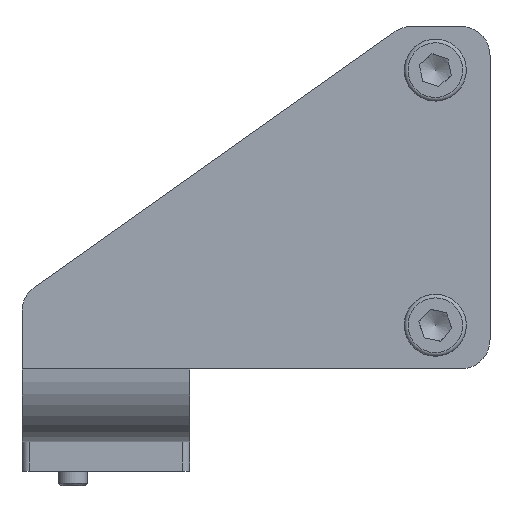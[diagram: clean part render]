
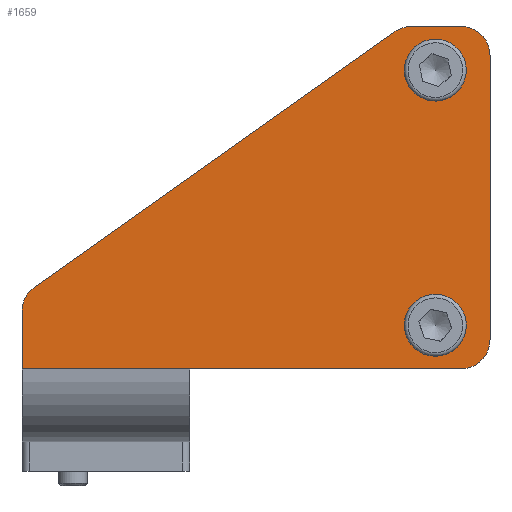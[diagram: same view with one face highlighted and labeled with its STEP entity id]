
A CAD part, left-side view. The second image highlights one B-rep face of the part: STEP entity #1659.
In plain terms, the highlighted planar face has unit normal (-1, 0, 0).
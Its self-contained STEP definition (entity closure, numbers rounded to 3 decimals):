
#134=FACE_BOUND('',#325,.T.);
#135=FACE_BOUND('',#326,.T.);
#171=PLANE('',#1860);
#222=FACE_OUTER_BOUND('',#324,.T.);
#324=EDGE_LOOP('',(#1181,#1182,#1183,#1184,#1185,#1186,#1187,#1188,#1189,
#1190));
#325=EDGE_LOOP('',(#1191));
#326=EDGE_LOOP('',(#1192));
#467=LINE('',#2599,#585);
#468=LINE('',#2603,#586);
#469=LINE('',#2607,#587);
#470=LINE('',#2611,#588);
#471=LINE('',#2613,#589);
#472=LINE('',#2614,#590);
#585=VECTOR('',#2086,10.);
#586=VECTOR('',#2089,10.);
#587=VECTOR('',#2092,10.);
#588=VECTOR('',#2095,10.);
#589=VECTOR('',#2096,10.);
#590=VECTOR('',#2097,10.);
#699=CIRCLE('',#1859,4.);
#700=CIRCLE('',#1861,4.);
#701=CIRCLE('',#1862,4.);
#702=CIRCLE('',#1863,4.);
#703=CIRCLE('',#1864,2.65);
#704=CIRCLE('',#1865,2.65);
#787=VERTEX_POINT('',#2592);
#788=VERTEX_POINT('',#2594);
#789=VERTEX_POINT('',#2598);
#790=VERTEX_POINT('',#2600);
#791=VERTEX_POINT('',#2602);
#792=VERTEX_POINT('',#2604);
#793=VERTEX_POINT('',#2606);
#794=VERTEX_POINT('',#2608);
#795=VERTEX_POINT('',#2610);
#796=VERTEX_POINT('',#2612);
#797=VERTEX_POINT('',#2615);
#798=VERTEX_POINT('',#2617);
#946=EDGE_CURVE('',#787,#788,#699,.T.);
#948=EDGE_CURVE('',#787,#789,#467,.T.);
#949=EDGE_CURVE('',#790,#789,#700,.T.);
#950=EDGE_CURVE('',#790,#791,#468,.T.);
#951=EDGE_CURVE('',#792,#791,#701,.T.);
#952=EDGE_CURVE('',#792,#793,#469,.T.);
#953=EDGE_CURVE('',#794,#793,#702,.T.);
#954=EDGE_CURVE('',#795,#794,#470,.T.);
#955=EDGE_CURVE('',#795,#796,#471,.T.);
#956=EDGE_CURVE('',#796,#788,#472,.T.);
#957=EDGE_CURVE('',#797,#797,#703,.T.);
#958=EDGE_CURVE('',#798,#798,#704,.T.);
#1181=ORIENTED_EDGE('',*,*,#946,.F.);
#1182=ORIENTED_EDGE('',*,*,#948,.T.);
#1183=ORIENTED_EDGE('',*,*,#949,.F.);
#1184=ORIENTED_EDGE('',*,*,#950,.T.);
#1185=ORIENTED_EDGE('',*,*,#951,.F.);
#1186=ORIENTED_EDGE('',*,*,#952,.T.);
#1187=ORIENTED_EDGE('',*,*,#953,.F.);
#1188=ORIENTED_EDGE('',*,*,#954,.F.);
#1189=ORIENTED_EDGE('',*,*,#955,.T.);
#1190=ORIENTED_EDGE('',*,*,#956,.T.);
#1191=ORIENTED_EDGE('',*,*,#957,.T.);
#1192=ORIENTED_EDGE('',*,*,#958,.T.);
#1659=ADVANCED_FACE('',(#222,#134,#135),#171,.F.);
#1859=AXIS2_PLACEMENT_3D('',#2595,#2081,#2082);
#1860=AXIS2_PLACEMENT_3D('',#2597,#2084,#2085);
#1861=AXIS2_PLACEMENT_3D('',#2601,#2087,#2088);
#1862=AXIS2_PLACEMENT_3D('',#2605,#2090,#2091);
#1863=AXIS2_PLACEMENT_3D('',#2609,#2093,#2094);
#1864=AXIS2_PLACEMENT_3D('',#2616,#2098,#2099);
#1865=AXIS2_PLACEMENT_3D('',#2618,#2100,#2101);
#2081=DIRECTION('center_axis',(1.,0.,0.));
#2082=DIRECTION('ref_axis',(0.,-0.707,-0.707));
#2084=DIRECTION('center_axis',(1.,0.,0.));
#2085=DIRECTION('ref_axis',(0.,0.,-1.));
#2086=DIRECTION('',(0.,0.,1.));
#2087=DIRECTION('center_axis',(1.,0.,0.));
#2088=DIRECTION('ref_axis',(0.,-0.707,0.707));
#2089=DIRECTION('',(0.,1.,0.));
#2090=DIRECTION('center_axis',(1.,0.,0.));
#2091=DIRECTION('ref_axis',(0.,0.303,0.953));
#2092=DIRECTION('',(0.,0.816,-0.578));
#2093=DIRECTION('center_axis',(1.,0.,0.));
#2094=DIRECTION('ref_axis',(0.,0.888,0.459));
#2095=DIRECTION('',(0.,0.,1.));
#2096=DIRECTION('',(0.,-1.,0.));
#2097=DIRECTION('',(0.,-1.,0.));
#2098=DIRECTION('center_axis',(1.,0.,0.));
#2099=DIRECTION('ref_axis',(0.,0.,
1.));
#2100=DIRECTION('center_axis',(1.,0.,0.));
#2101=DIRECTION('ref_axis',(0.,0.,
1.));
#2592=CARTESIAN_POINT('',(-44.1,-41.2,14.));
#2594=CARTESIAN_POINT('',(-44.1,-37.2,10.));
#2595=CARTESIAN_POINT('Origin',(-44.1,-37.2,14.));
#2597=CARTESIAN_POINT('Origin',(-44.1,11.5,-36.289));
#2598=CARTESIAN_POINT('',(-44.1,-41.2,53.));
#2599=CARTESIAN_POINT('',(-44.1,-41.2,10.));
#2600=CARTESIAN_POINT('',(-44.1,-37.2,57.));
#2601=CARTESIAN_POINT('Origin',(-44.1,-37.2,53.));
#2602=CARTESIAN_POINT('',(-44.1,-30.474,57.));
#2603=CARTESIAN_POINT('',(-44.1,-41.2,57.));
#2604=CARTESIAN_POINT('',(-44.1,-28.161,56.263));
#2605=CARTESIAN_POINT('Origin',(-44.1,-30.474,53.));
#2606=CARTESIAN_POINT('',(-44.1,21.313,21.196));
#2607=CARTESIAN_POINT('',(-44.1,-8.674,42.451));
#2608=CARTESIAN_POINT('',(-44.1,23.,17.932));
#2609=CARTESIAN_POINT('Origin',(-44.1,19.,17.932));
#2610=CARTESIAN_POINT('',(-44.1,23.,10.));
#2611=CARTESIAN_POINT('',(-44.1,23.,10.));
#2612=CARTESIAN_POINT('',(-44.1,0.,10.));
#2613=CARTESIAN_POINT('',(-44.1,11.5,10.));
#2614=CARTESIAN_POINT('',(-44.1,0.,10.));
#2615=CARTESIAN_POINT('',(-44.1,-33.7,53.65));
#2616=CARTESIAN_POINT('Origin',(-44.1,-33.7,51.));
#2617=CARTESIAN_POINT('',(-44.1,-33.7,18.65));
#2618=CARTESIAN_POINT('Origin',(-44.1,-33.7,16.));
